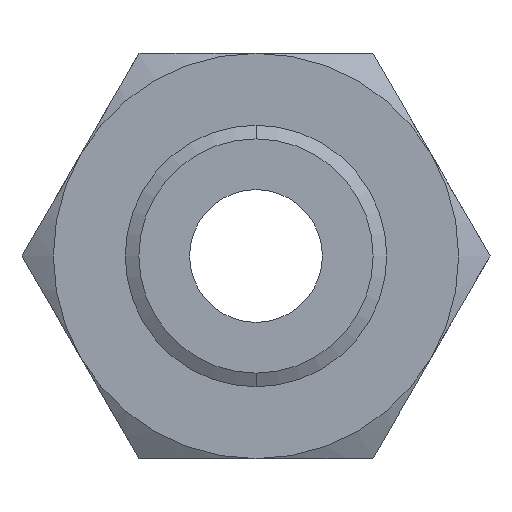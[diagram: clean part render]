
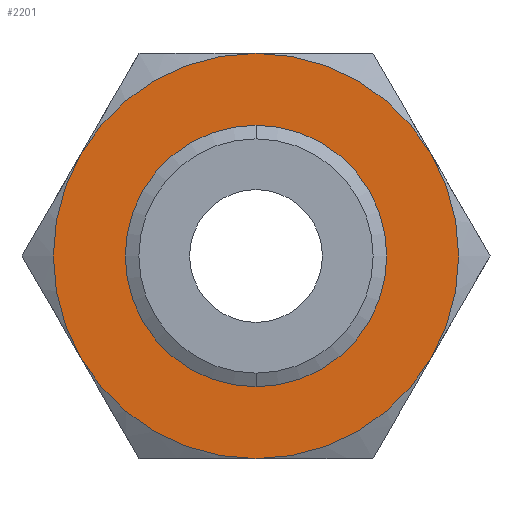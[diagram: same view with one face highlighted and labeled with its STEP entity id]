
A CAD part, front view. The second image highlights one B-rep face of the part: STEP entity #2201.
In plain terms, the highlighted planar face has unit normal (0, -1, 0).
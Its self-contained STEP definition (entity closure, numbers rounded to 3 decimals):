
#207 = EDGE_CURVE ( 'NONE', #208, #209, #858, .T. ) ;
#208 = VERTEX_POINT ( 'NONE', #912 ) ;
#209 = VERTEX_POINT ( 'NONE', #911 ) ;
#850 = DIRECTION ( 'NONE',  ( 0., 0., -1. ) ) ;
#851 = DIRECTION ( 'NONE',  ( 0., -1., 0. ) ) ;
#852 = CARTESIAN_POINT ( 'NONE',  ( 0., 0., 0. ) ) ;
#853 = AXIS2_PLACEMENT_3D ( 'NONE', #852, #851, #850 ) ;
#858 = CIRCLE ( 'NONE', #853, 44.804 ) ;
#911 = CARTESIAN_POINT ( 'NONE',  ( 0., 0., 44.804 ) ) ;
#912 = CARTESIAN_POINT ( 'NONE',  ( 0., 0., -44.804 ) ) ;
#1436 = CIRCLE ( 'NONE', #1498, 77.5 ) ;
#1441 = CARTESIAN_POINT ( 'NONE',  ( -67.117, 0., -38.75 ) ) ;
#1473 = DIRECTION ( 'NONE',  ( 0., 0., 1. ) ) ;
#1474 = DIRECTION ( 'NONE',  ( 0., 1., 0. ) ) ;
#1475 = CARTESIAN_POINT ( 'NONE',  ( 44.745, 0., -77.5 ) ) ;
#1476 = AXIS2_PLACEMENT_3D ( 'NONE', #1475, #1474, #1473 ) ;
#1478 = PLANE ( 'NONE',  #1476 ) ;
#1479 = FACE_BOUND ( 'NONE', #2209, .T. ) ;
#1480 = FACE_OUTER_BOUND ( 'NONE', #2191, .T. ) ;
#1495 = DIRECTION ( 'NONE',  ( 0., 0., 1. ) ) ;
#1496 = DIRECTION ( 'NONE',  ( 0., 1., 0. ) ) ;
#1497 = CARTESIAN_POINT ( 'NONE',  ( 0., 0., 0. ) ) ;
#1498 = AXIS2_PLACEMENT_3D ( 'NONE', #1497, #1496, #1495 ) ;
#1499 = DIRECTION ( 'NONE',  ( 0., 0., 1. ) ) ;
#1500 = DIRECTION ( 'NONE',  ( 0., 1., 0. ) ) ;
#1501 = CARTESIAN_POINT ( 'NONE',  ( 0., 0., 0. ) ) ;
#1502 = AXIS2_PLACEMENT_3D ( 'NONE', #1501, #1500, #1499 ) ;
#1503 = CIRCLE ( 'NONE', #1502, 77.5 ) ;
#1504 = CARTESIAN_POINT ( 'NONE',  ( 0., 0., -77.5 ) ) ;
#1505 = DIRECTION ( 'NONE',  ( 0., 0., 1. ) ) ;
#1506 = DIRECTION ( 'NONE',  ( 0., 1., 0. ) ) ;
#1507 = CARTESIAN_POINT ( 'NONE',  ( 0., 0., 0. ) ) ;
#1508 = AXIS2_PLACEMENT_3D ( 'NONE', #1507, #1506, #1505 ) ;
#1509 = CIRCLE ( 'NONE', #1508, 77.5 ) ;
#1514 = CARTESIAN_POINT ( 'NONE',  ( 67.117, 0., -38.75 ) ) ;
#1515 = DIRECTION ( 'NONE',  ( 0., 0., -1. ) ) ;
#1516 = DIRECTION ( 'NONE',  ( 0., -1., 0. ) ) ;
#1517 = CARTESIAN_POINT ( 'NONE',  ( 0., 0., 0. ) ) ;
#1518 = AXIS2_PLACEMENT_3D ( 'NONE', #1517, #1516, #1515 ) ;
#1519 = CIRCLE ( 'NONE', #1518, 44.804 ) ;
#1531 = CIRCLE ( 'NONE', #1591, 77.5 ) ;
#1533 = DIRECTION ( 'NONE',  ( 0., 0., 1. ) ) ;
#1534 = DIRECTION ( 'NONE',  ( 0., 1., 0. ) ) ;
#1535 = CARTESIAN_POINT ( 'NONE',  ( 0., 0., 0. ) ) ;
#1536 = AXIS2_PLACEMENT_3D ( 'NONE', #1535, #1534, #1533 ) ;
#1537 = CIRCLE ( 'NONE', #1536, 77.5 ) ;
#1541 = CARTESIAN_POINT ( 'NONE',  ( -67.117, 0., 38.75 ) ) ;
#1556 = DIRECTION ( 'NONE',  ( 0., 0., 1. ) ) ;
#1557 = DIRECTION ( 'NONE',  ( 0., 1., 0. ) ) ;
#1558 = CARTESIAN_POINT ( 'NONE',  ( 0., 0., 0. ) ) ;
#1559 = AXIS2_PLACEMENT_3D ( 'NONE', #1558, #1557, #1556 ) ;
#1560 = CIRCLE ( 'NONE', #1559, 77.5 ) ;
#1588 = DIRECTION ( 'NONE',  ( 0., 0., 1. ) ) ;
#1589 = DIRECTION ( 'NONE',  ( 0., 1., 0. ) ) ;
#1590 = CARTESIAN_POINT ( 'NONE',  ( 0., 0., 0. ) ) ;
#1591 = AXIS2_PLACEMENT_3D ( 'NONE', #1590, #1589, #1588 ) ;
#1634 = CARTESIAN_POINT ( 'NONE',  ( 67.117, 0., 38.75 ) ) ;
#1640 = CARTESIAN_POINT ( 'NONE',  ( 0., 0., 77.5 ) ) ;
#2187 = VERTEX_POINT ( 'NONE', #1441 ) ;
#2191 = EDGE_LOOP ( 'NONE', ( #2193, #2229, #2236, #2222, #2221, #2214 ) ) ;
#2192 = EDGE_CURVE ( 'NONE', #2280, #2281, #1436, .T. ) ;
#2193 = ORIENTED_EDGE ( 'NONE', *, *, #2192, .F. ) ;
#2201 = ADVANCED_FACE ( 'NONE', ( #1480, #1479 ), #1478, .F. ) ;
#2208 = EDGE_CURVE ( 'NONE', #209, #208, #1519, .T. ) ;
#2209 = EDGE_LOOP ( 'NONE', ( #2210, #2211 ) ) ;
#2210 = ORIENTED_EDGE ( 'NONE', *, *, #207, .F. ) ;
#2211 = ORIENTED_EDGE ( 'NONE', *, *, #2208, .F. ) ;
#2214 = ORIENTED_EDGE ( 'NONE', *, *, #2218, .F. ) ;
#2216 = VERTEX_POINT ( 'NONE', #1514 ) ;
#2218 = EDGE_CURVE ( 'NONE', #2281, #2216, #1509, .T. ) ;
#2219 = VERTEX_POINT ( 'NONE', #1504 ) ;
#2220 = EDGE_CURVE ( 'NONE', #2216, #2219, #1503, .T. ) ;
#2221 = ORIENTED_EDGE ( 'NONE', *, *, #2220, .F. ) ;
#2222 = ORIENTED_EDGE ( 'NONE', *, *, #2223, .F. ) ;
#2223 = EDGE_CURVE ( 'NONE', #2219, #2187, #1560, .T. ) ;
#2229 = ORIENTED_EDGE ( 'NONE', *, *, #2232, .F. ) ;
#2231 = VERTEX_POINT ( 'NONE', #1541 ) ;
#2232 = EDGE_CURVE ( 'NONE', #2231, #2280, #1537, .T. ) ;
#2235 = EDGE_CURVE ( 'NONE', #2187, #2231, #1531, .T. ) ;
#2236 = ORIENTED_EDGE ( 'NONE', *, *, #2235, .F. ) ;
#2280 = VERTEX_POINT ( 'NONE', #1640 ) ;
#2281 = VERTEX_POINT ( 'NONE', #1634 ) ;
